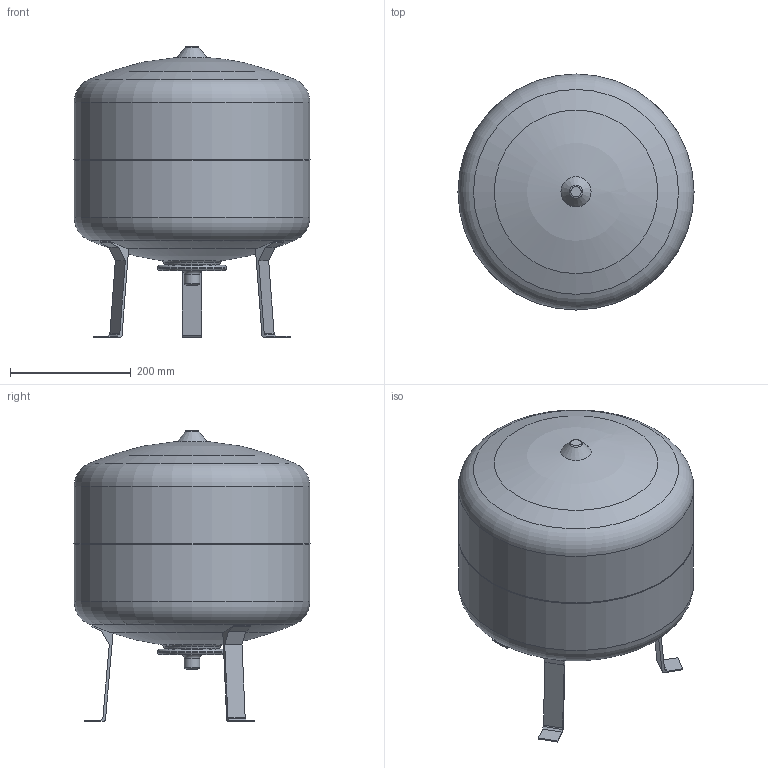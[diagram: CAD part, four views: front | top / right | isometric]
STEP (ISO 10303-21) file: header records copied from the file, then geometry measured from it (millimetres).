
FILE_DESCRIPTION(('STEP AP203'), '1');
FILE_NAME('306518.003-VT.A.R.050035', '2024-08-20T11:06:44', ('IT'), ('VESTA'), 'C3D Converter', 'C3D Toolkit', '');
FILE_SCHEMA(('CONFIG_CONTROL_DESIGN'));
Length unit declared in the file: millimetre
Bounding box: 390.8 x 390.8 x 481.53 mm (x, y, z)
Volume: 34761152.6 mm3; surface area: 594184.6 mm2
Topology: 1 solids, 1 shells, 87 faces, 246 edges, 168 vertices
Faces by surface type: plane 48, torus 20, cylinder 11, cone 3, bspline 3, sphere 2
Full cylindrical faces by diameter (mm): 16 x1, 21.5 x1, 25.5 x1, 98.1 x1, 114 x1, 390 x2, 390.8 x1
Entity records: 3657 total; most frequent: CARTESIAN_POINT 1418, DIRECTION 470, ORIENTED_EDGE 426, EDGE_CURVE 213, AXIS2_PLACEMENT_3D 184, VERTEX_POINT 168, FACE_BOUND 127, EDGE_LOOP 127
